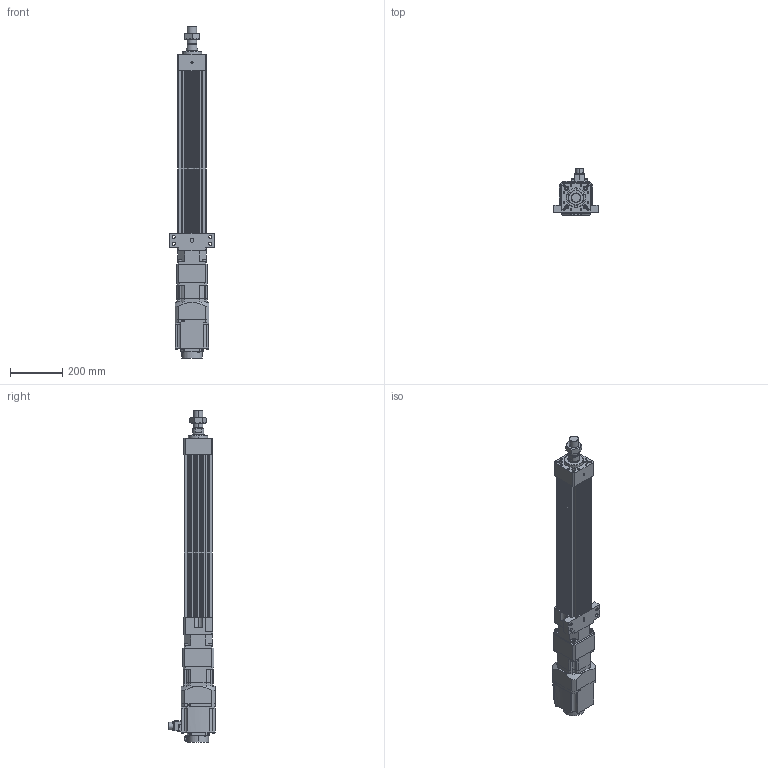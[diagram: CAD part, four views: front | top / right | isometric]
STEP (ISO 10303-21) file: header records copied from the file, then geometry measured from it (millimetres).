
FILE_DESCRIPTION (( 'STEP AP203' ), '1' );
FILE_NAME ('HES110NS(HS)-S450-W015G00-M-FFC.STEP', '2023-01-28T05:01:04', ( 'tms' ), ( '' ), 'SwSTEP 2.0', 'SolidWorks 2013', '' );
FILE_SCHEMA (( 'CONFIG_CONTROL_DESIGN' ));
Length unit declared in the file: millimetre
Products named in the file (8): HES110-S450-G120-FFC; M36X1.5P; AB115-003[HG-SR152]; HES110 ROD M ST450; HG-SR152; AB1151; P0401400706; HES110NS(HS)-S450-W015G00-M-FFC
Assembly tree (7 placements, depth 3):
  HES110NS(HS)-S450-W015G00-M-FFC
    HES110-S450-G120-FFC
    HES110 ROD M ST450
    M36X1.5P
    AB115-003[HG-SR152]
      AB1151
      P0401400706
    HG-SR152
Bounding box: 170 x 177.49 x 1271.5 mm (x, y, z)
Volume: 8163193.5 mm3; surface area: 1146123 mm2
Topology: 4 solids, 15 shells, 1222 faces, 3083 edges, 1988 vertices
Faces by surface type: plane 557, cylinder 549, cone 104, bspline 8, torus 4
Entity records: 38313 total; most frequent: CARTESIAN_POINT 7246, DIRECTION 6648, ORIENTED_EDGE 6070, EDGE_CURVE 3045, AXIS2_PLACEMENT_3D 2450, VERTEX_POINT 1988, LINE 1748, VECTOR 1748
